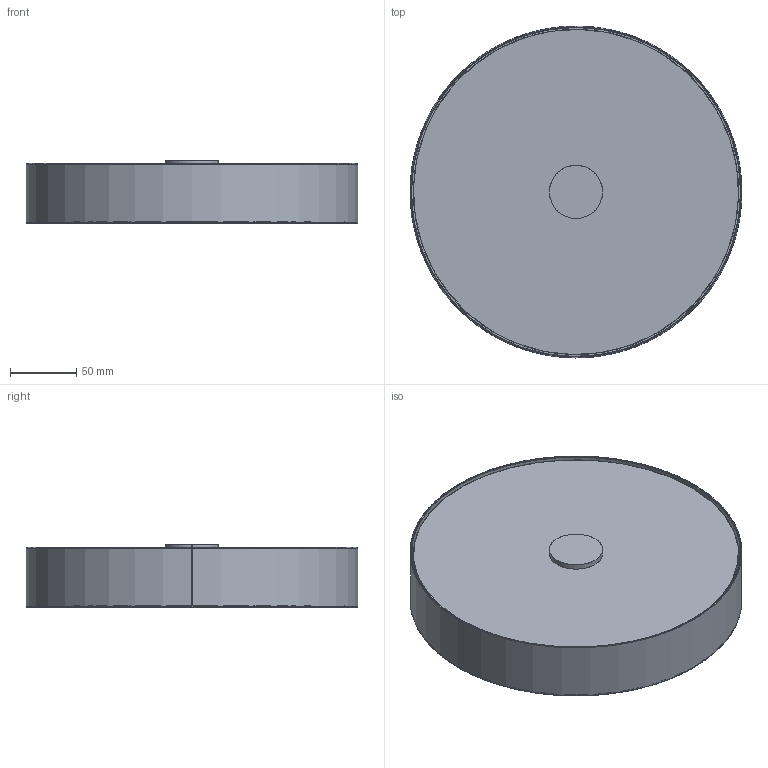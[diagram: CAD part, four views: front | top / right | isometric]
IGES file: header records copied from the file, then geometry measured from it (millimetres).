
Start section: SolidWorks IGES file using analytic representation for surfaces
Global section: file name: C:\Users\Agus\Desktop\1283\A1283\A1283.IGS; native system: SolidWorks 2018; preprocessor: SolidWorks 2018; author: Agus; date: 191025.125940; units: millimetre
Bounding box: 250 x 250 x 47 mm (x, y, z)
Surface area: 304785 mm2 (no closed solid volume)
Topology: 0 solids, 0 shells, 72 faces, 1608 edges, 1608 vertices
Faces by surface type: bspline 38, revolution 34
